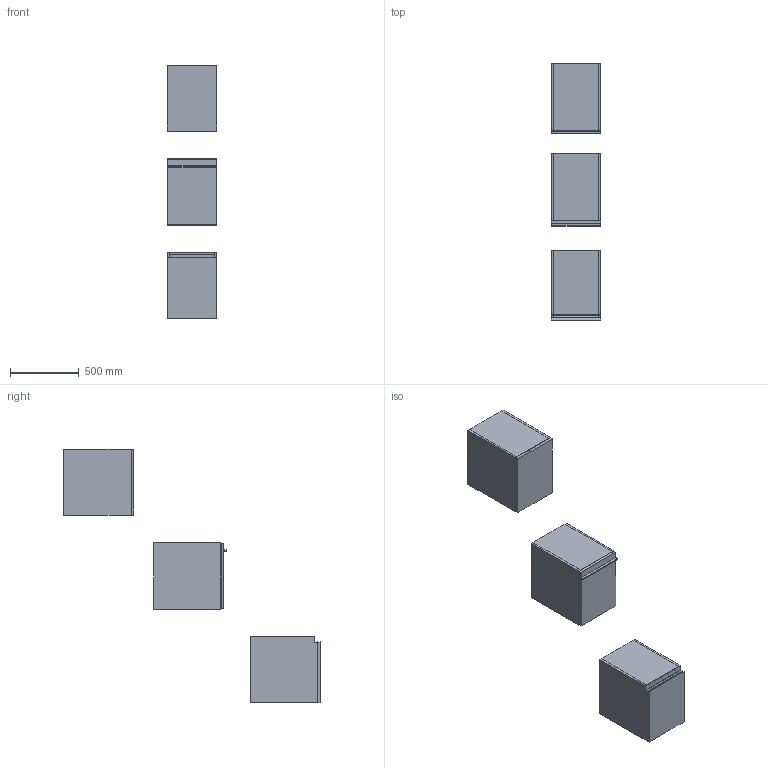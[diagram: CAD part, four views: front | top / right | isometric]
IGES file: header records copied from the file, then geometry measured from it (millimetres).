
Start section: Data from Parasolid IGES Translator 19.0.9, Copyright(c) 2006 Siemens PL M Software. All Rights Reserved.
Global section: file name: noorth-SI-H 48 D 51 W 36_8563.igs; native system: By Siemens PLM Incorporated; preprocessor: XPlus GENERIC/IGES 19.0.9; author: Noname; organization: Noname; date: 20200601.113348; units: metre
Bounding box: 360 x 1857.1 x 1840.01 mm (x, y, z)
Volume: 48507908.6 mm3; surface area: 7097962.1 mm2
Topology: 20 solids, 20 shells, 178 faces, 382 edges, 234 vertices
Faces by surface type: plane 134, extrusion 16, bspline 16, cylinder 12
